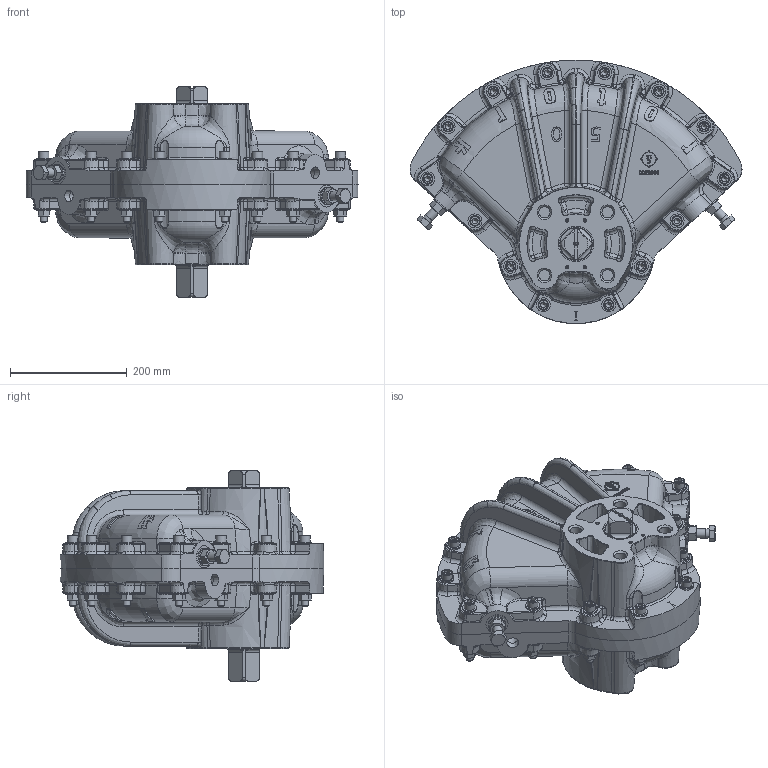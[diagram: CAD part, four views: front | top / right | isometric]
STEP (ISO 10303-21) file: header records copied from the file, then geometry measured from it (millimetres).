
FILE_DESCRIPTION(/* description */ ('Unknown'),/* implementation_level */ '2;1');
FILE_NAME(/* name */ 'D000000206_01032017',/* time_stamp */ '2017-03-02T16:50:52+05:00',/* author */ ('Unknown'),/* organization */ ('Unknown'),/* preprocessor_version */ 'ST-DEVELOPER v16.7',/* originating_system */ 'DEX',/* authorisation */ $);
FILE_SCHEMA (('AUTOMOTIVE_DESIGN {1 0 10303 214 3 1 1}'));
Products named in the file (1): D000000206_01032017
Bounding box: 568.17 x 450.77 x 360.8 mm (x, y, z)
Surface area: 860163.3 mm2 (no closed solid volume)
Topology: 0 solids, 83 shells, 2478 faces, 6079 edges, 3605 vertices
Faces by surface type: bspline 768, plane 700, cone 382, cylinder 318, torus 244, sphere 66
Full cylindrical faces by diameter (mm): 4.134 x16, 4.917 x1, 12 x14, 16 x4, 18 x14, 18.923 x2, 19.169 x16, 20.16 x2, 23 x2, 24 x28, 30 x2, 38 x2, 54.95 x2, 60.604 x2
Entity records: 129405 total; most frequent: CARTESIAN_POINT 77864, ORIENTED_EDGE 10926, DIRECTION 8771, EDGE_CURVE 5675, AXIS2_PLACEMENT_3D 3799, VERTEX_POINT 3551, FACE_BOUND 2882, EDGE_LOOP 2858
